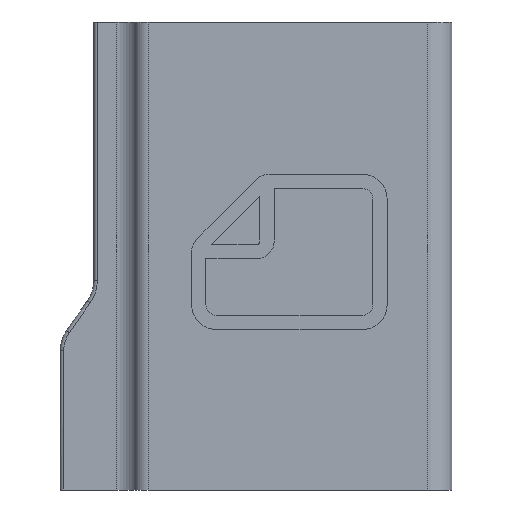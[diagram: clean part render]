
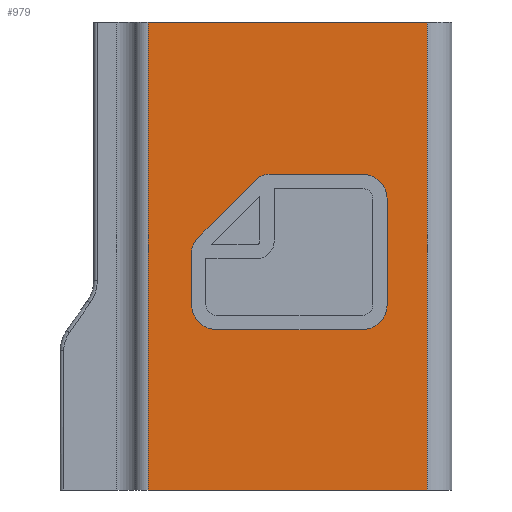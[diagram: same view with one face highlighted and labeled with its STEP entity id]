
A CAD part, front view. The second image highlights one B-rep face of the part: STEP entity #979.
In plain terms, the highlighted planar face has unit normal (0, -1, 0).
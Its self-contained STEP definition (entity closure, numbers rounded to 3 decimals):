
#21=FACE_BOUND('',#180,.T.);
#33=CIRCLE('',#1036,7.);
#35=CIRCLE('',#1040,7.);
#37=CIRCLE('',#1044,7.);
#39=CIRCLE('',#1048,5.);
#41=CIRCLE('',#1052,5.);
#123=FACE_OUTER_BOUND('',#179,.T.);
#179=EDGE_LOOP('',(#756,#757,#758,#759));
#180=EDGE_LOOP('',(#760,#761,#762,#763,#764,#765,#766,#767,#768,#769));
#242=LINE('',#1507,#334);
#247=LINE('',#1521,#339);
#251=LINE('',#1533,#343);
#255=LINE('',#1545,#347);
#259=LINE('',#1557,#351);
#262=LINE('',#1568,#354);
#263=LINE('',#1570,#355);
#264=LINE('',#1572,#356);
#265=LINE('',#1573,#357);
#334=VECTOR('',#1199,10.);
#339=VECTOR('',#1212,10.);
#343=VECTOR('',#1224,10.);
#347=VECTOR('',#1236,10.);
#351=VECTOR('',#1248,10.);
#354=VECTOR('',#1261,10.);
#355=VECTOR('',#1262,10.);
#356=VECTOR('',#1263,10.);
#357=VECTOR('',#1264,10.);
#422=VERTEX_POINT('',#1505);
#423=VERTEX_POINT('',#1506);
#426=VERTEX_POINT('',#1514);
#428=VERTEX_POINT('',#1520);
#430=VERTEX_POINT('',#1526);
#432=VERTEX_POINT('',#1532);
#434=VERTEX_POINT('',#1538);
#436=VERTEX_POINT('',#1544);
#438=VERTEX_POINT('',#1550);
#440=VERTEX_POINT('',#1556);
#442=VERTEX_POINT('',#1566);
#443=VERTEX_POINT('',#1567);
#444=VERTEX_POINT('',#1569);
#445=VERTEX_POINT('',#1571);
#533=EDGE_CURVE('',#422,#423,#242,.T.);
#537=EDGE_CURVE('',#426,#422,#33,.T.);
#540=EDGE_CURVE('',#428,#426,#247,.T.);
#543=EDGE_CURVE('',#430,#428,#35,.T.);
#546=EDGE_CURVE('',#432,#430,#251,.T.);
#549=EDGE_CURVE('',#434,#432,#37,.T.);
#552=EDGE_CURVE('',#436,#434,#255,.T.);
#555=EDGE_CURVE('',#438,#436,#39,.T.);
#558=EDGE_CURVE('',#440,#438,#259,.T.);
#561=EDGE_CURVE('',#423,#440,#41,.T.);
#563=EDGE_CURVE('',#442,#443,#262,.T.);
#564=EDGE_CURVE('',#443,#444,#263,.T.);
#565=EDGE_CURVE('',#445,#444,#264,.T.);
#566=EDGE_CURVE('',#442,#445,#265,.T.);
#756=ORIENTED_EDGE('',*,*,#563,.T.);
#757=ORIENTED_EDGE('',*,*,#564,.T.);
#758=ORIENTED_EDGE('',*,*,#565,.F.);
#759=ORIENTED_EDGE('',*,*,#566,.F.);
#760=ORIENTED_EDGE('',*,*,#533,.T.);
#761=ORIENTED_EDGE('',*,*,#561,.T.);
#762=ORIENTED_EDGE('',*,*,#558,.T.);
#763=ORIENTED_EDGE('',*,*,#555,.T.);
#764=ORIENTED_EDGE('',*,*,#552,.T.);
#765=ORIENTED_EDGE('',*,*,#549,.T.);
#766=ORIENTED_EDGE('',*,*,#546,.T.);
#767=ORIENTED_EDGE('',*,*,#543,.T.);
#768=ORIENTED_EDGE('',*,*,#540,.T.);
#769=ORIENTED_EDGE('',*,*,#537,.T.);
#941=PLANE('',#1055);
#979=ADVANCED_FACE('',(#123,#21),#941,.T.);
#1036=AXIS2_PLACEMENT_3D('',#1515,#1205,#1206);
#1040=AXIS2_PLACEMENT_3D('',#1527,#1217,#1218);
#1044=AXIS2_PLACEMENT_3D('',#1539,#1229,#1230);
#1048=AXIS2_PLACEMENT_3D('',#1551,#1241,#1242);
#1052=AXIS2_PLACEMENT_3D('',#1562,#1253,#1254);
#1055=AXIS2_PLACEMENT_3D('',#1565,#1259,#1260);
#1199=DIRECTION('',(0.,0.,1.));
#1205=DIRECTION('center_axis',(0.,1.,0.));
#1206=DIRECTION('ref_axis',(-1.,0.,0.));
#1212=DIRECTION('',(-1.,0.,0.));
#1217=DIRECTION('center_axis',(0.,1.,0.));
#1218=DIRECTION('ref_axis',(0.,0.,-1.));
#1224=DIRECTION('',(0.,0.,-1.));
#1229=DIRECTION('center_axis',(0.,1.,0.));
#1230=DIRECTION('ref_axis',(1.,0.,0.));
#1236=DIRECTION('',(1.,0.,0.));
#1241=DIRECTION('center_axis',(0.,1.,0.));
#1242=DIRECTION('ref_axis',(0.,0.,1.));
#1248=DIRECTION('',(0.707,0.,0.707));
#1253=DIRECTION('center_axis',(0.,1.,0.));
#1254=DIRECTION('ref_axis',(-0.707,0.,0.707));
#1259=DIRECTION('center_axis',(0.,-1.,0.));
#1260=DIRECTION('ref_axis',(1.,0.,0.));
#1261=DIRECTION('',(-1.,0.,0.));
#1262=DIRECTION('',(0.,0.,-1.));
#1263=DIRECTION('',(-1.,0.,0.));
#1264=DIRECTION('',(0.,0.,-1.));
#1505=CARTESIAN_POINT('',(12.116,-2.5,51.247));
#1506=CARTESIAN_POINT('',(12.116,-2.5,66.24));
#1507=CARTESIAN_POINT('',(12.116,-2.5,25.624));
#1514=CARTESIAN_POINT('',(19.116,-2.5,44.247));
#1515=CARTESIAN_POINT('Origin',(19.116,-2.5,51.247));
#1520=CARTESIAN_POINT('',(60.248,-2.5,44.247));
#1521=CARTESIAN_POINT('',(30.024,-2.5,44.247));
#1526=CARTESIAN_POINT('',(67.248,-2.5,51.247));
#1527=CARTESIAN_POINT('Origin',(60.248,-2.5,51.247));
#1532=CARTESIAN_POINT('',(67.248,-2.5,81.053));
#1533=CARTESIAN_POINT('',(67.248,-2.5,40.526));
#1538=CARTESIAN_POINT('',(60.248,-2.5,88.053));
#1539=CARTESIAN_POINT('Origin',(60.248,-2.5,81.053));
#1544=CARTESIAN_POINT('',(33.929,-2.5,88.053));
#1545=CARTESIAN_POINT('',(16.864,-2.5,88.053));
#1550=CARTESIAN_POINT('',(30.393,-2.5,86.588));
#1551=CARTESIAN_POINT('Origin',(33.929,-2.5,83.053));
#1556=CARTESIAN_POINT('',(13.581,-2.5,69.776));
#1557=CARTESIAN_POINT('',(-7.308,-2.5,48.887));
#1562=CARTESIAN_POINT('Origin',(17.116,-2.5,66.24));
#1565=CARTESIAN_POINT('Origin',(-0.2,-2.5,0.));
#1566=CARTESIAN_POINT('',(78.5,-2.5,131.));
#1567=CARTESIAN_POINT('',(-0.2,-2.5,131.));
#1568=CARTESIAN_POINT('',(17.663,-2.5,131.));
#1569=CARTESIAN_POINT('',(-0.2,-2.5,-1.));
#1570=CARTESIAN_POINT('',(-0.2,-2.5,10.));
#1571=CARTESIAN_POINT('',(78.5,-2.5,-1.));
#1572=CARTESIAN_POINT('',(15.025,-2.5,-1.));
#1573=CARTESIAN_POINT('',(78.5,-2.5,0.));
